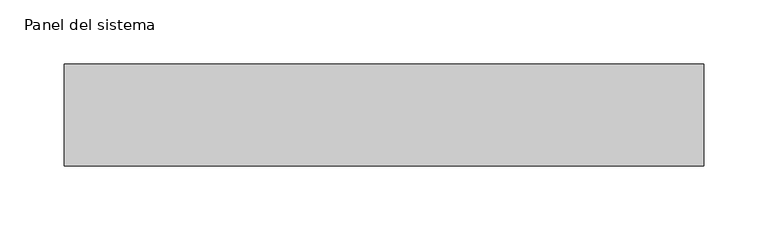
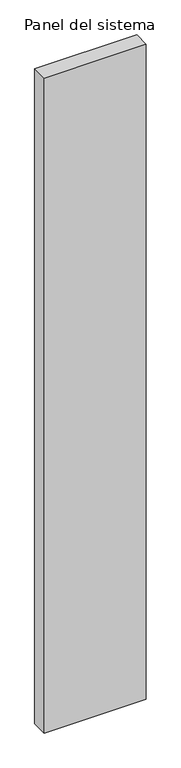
"""IFC4 building model written with IfcOpenShell, lengths in millimetres: plate geometry, Panel del sistema : HIANSA PANEL - PANELES DE CUBIERTA CON TAPAJUNTA - CUB 3GR - Esp. 80mm."""

from ifc_helpers import new_model, si_unit, origin, origin_with_axes, place, context, project, spatial, polyline, outline, extrude, source, transform, mapped, element, save


def panel_del_sistema_1ec12507(model_context):
    return source(origin(), model_context, "Body", "SweptSolid", [
        extrude(outline(polyline([(249.9999998, 0.0), (-249.9999998, 0.0), (-249.9999998, 80.0), (249.9999998, 80.0), (249.9999998, 0.0)])), origin_with_axes(), (0.0, 0.0, 1.0), 3390.8509027),
    ])


if __name__ == "__main__":
    model = new_model("IFC4")
    model_context = context("Model", 3, world=origin())
    ifc_project = project(units=[si_unit("LENGTHUNIT", "METRE", prefix="MILLI")], contexts=[model_context])
    site = spatial("IfcSite", under=ifc_project)
    building = spatial("IfcBuilding", under=site)
    placement = place(None, origin())
    panel_del_sistema_shape = panel_del_sistema_1ec12507(model_context)
    element("IfcPlate", 1, ObjectType="Panel del sistema : HIANSA PANEL - PANELES DE CUBIERTA CON TAPAJUNTA - CUB 3GR - Esp. 80mm", at=placement, inside=building, context=model_context, shape_type="MappedRepresentation", body=[
        mapped(panel_del_sistema_shape, transform((0.0, 0.0, 0.0), x_axis=(1.0, 0.0, 0.0), y_axis=(0.0, 1.0, 0.0), z_axis=(0.0, 0.0, 1.0))),
    ])
    save(model, "model.ifc")
